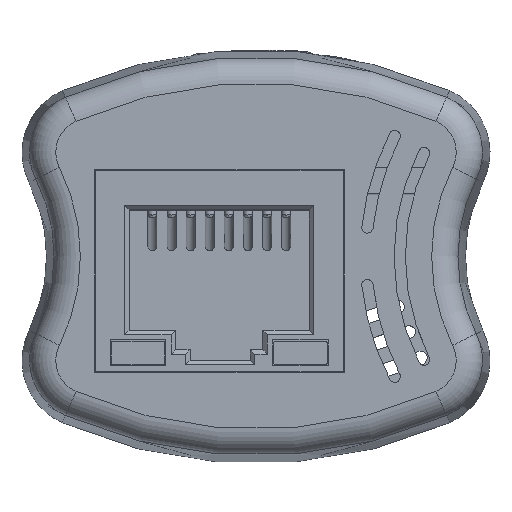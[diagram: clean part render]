
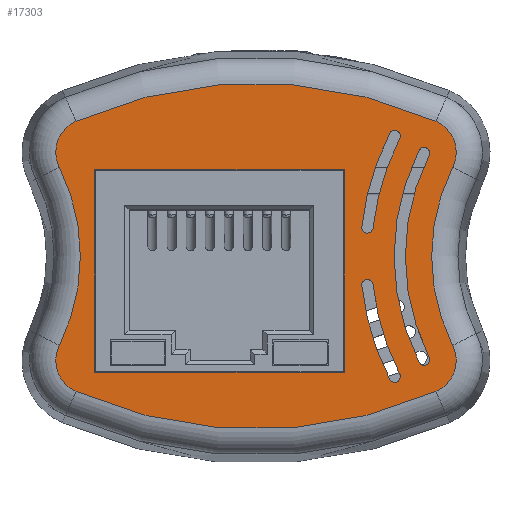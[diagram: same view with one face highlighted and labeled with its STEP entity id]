
A CAD part, top view. The second image highlights one B-rep face of the part: STEP entity #17303.
In plain terms, the highlighted planar face has unit normal (0, 0, 1).
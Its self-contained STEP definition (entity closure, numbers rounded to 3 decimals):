
#208=FACE_BOUND('',#2833,.T.);
#209=FACE_BOUND('',#2834,.T.);
#210=FACE_BOUND('',#2835,.T.);
#211=FACE_BOUND('',#2836,.T.);
#999=PLANE('',#18638);
#1842=FACE_OUTER_BOUND('',#2832,.T.);
#2832=EDGE_LOOP('',(#15307,#15308,#15309,#15310,#15311,#15312,#15313,#15314));
#2833=EDGE_LOOP('',(#15315,#15316,#15317,#15318));
#2834=EDGE_LOOP('',(#15319,#15320,#15321,#15322));
#2835=EDGE_LOOP('',(#15323,#15324,#15325,#15326));
#2836=EDGE_LOOP('',(#15327,#15328,#15329,#15330));
#4459=LINE('',#32143,#6216);
#4462=LINE('',#32149,#6219);
#4466=LINE('',#32161,#6223);
#4469=LINE('',#32165,#6226);
#6216=VECTOR('',#22396,10.);
#6219=VECTOR('',#22401,10.);
#6223=VECTOR('',#22407,10.);
#6226=VECTOR('',#22412,10.);
#6978=CIRCLE('',#18544,17.249);
#6980=CIRCLE('',#18547,0.375);
#6982=CIRCLE('',#18550,17.999);
#6984=CIRCLE('',#18553,0.375);
#6986=CIRCLE('',#18556,14.999);
#6988=CIRCLE('',#18559,0.375);
#6990=CIRCLE('',#18562,15.749);
#6992=CIRCLE('',#18565,0.375);
#6994=CIRCLE('',#18572,17.249);
#6996=CIRCLE('',#18575,0.375);
#6998=CIRCLE('',#18578,17.999);
#7000=CIRCLE('',#18581,0.375);
#7010=CIRCLE('',#18600,13.249);
#7015=CIRCLE('',#18606,2.251);
#7018=CIRCLE('',#18610,29.751);
#7021=CIRCLE('',#18614,2.251);
#7024=CIRCLE('',#18618,13.249);
#7027=CIRCLE('',#18622,2.251);
#7030=CIRCLE('',#18626,29.751);
#7032=CIRCLE('',#18629,2.251);
#8431=VERTEX_POINT('',#32092);
#8432=VERTEX_POINT('',#32094);
#8434=VERTEX_POINT('',#32100);
#8436=VERTEX_POINT('',#32106);
#8439=VERTEX_POINT('',#32116);
#8440=VERTEX_POINT('',#32118);
#8442=VERTEX_POINT('',#32124);
#8444=VERTEX_POINT('',#32130);
#8447=VERTEX_POINT('',#32140);
#8448=VERTEX_POINT('',#32142);
#8450=VERTEX_POINT('',#32148);
#8454=VERTEX_POINT('',#32160);
#8457=VERTEX_POINT('',#32170);
#8458=VERTEX_POINT('',#32172);
#8460=VERTEX_POINT('',#32178);
#8462=VERTEX_POINT('',#32184);
#8470=VERTEX_POINT('',#32220);
#8471=VERTEX_POINT('',#32222);
#8473=VERTEX_POINT('',#32228);
#8475=VERTEX_POINT('',#32234);
#8477=VERTEX_POINT('',#32240);
#8479=VERTEX_POINT('',#32246);
#8481=VERTEX_POINT('',#32252);
#8483=VERTEX_POINT('',#32258);
#10744=EDGE_CURVE('',#8432,#8431,#6978,.T.);
#10747=EDGE_CURVE('',#8434,#8432,#6980,.T.);
#10750=EDGE_CURVE('',#8436,#8434,#6982,.T.);
#10753=EDGE_CURVE('',#8431,#8436,#6984,.T.);
#10756=EDGE_CURVE('',#8440,#8439,#6986,.T.);
#10759=EDGE_CURVE('',#8442,#8440,#6988,.T.);
#10762=EDGE_CURVE('',#8444,#8442,#6990,.T.);
#10765=EDGE_CURVE('',#8439,#8444,#6992,.T.);
#10768=EDGE_CURVE('',#8448,#8447,#4459,.T.);
#10771=EDGE_CURVE('',#8450,#8448,#4462,.T.);
#10776=EDGE_CURVE('',#8454,#8450,#4466,.T.);
#10779=EDGE_CURVE('',#8447,#8454,#4469,.T.);
#10782=EDGE_CURVE('',#8458,#8457,#6994,.T.);
#10785=EDGE_CURVE('',#8460,#8458,#6996,.T.);
#10788=EDGE_CURVE('',#8462,#8460,#6998,.T.);
#10791=EDGE_CURVE('',#8457,#8462,#7000,.T.);
#10807=EDGE_CURVE('',#8470,#8471,#7010,.T.);
#10812=EDGE_CURVE('',#8471,#8473,#7015,.T.);
#10815=EDGE_CURVE('',#8473,#8475,#7018,.T.);
#10818=EDGE_CURVE('',#8475,#8477,#7021,.T.);
#10821=EDGE_CURVE('',#8477,#8479,#7024,.T.);
#10824=EDGE_CURVE('',#8479,#8481,#7027,.T.);
#10827=EDGE_CURVE('',#8481,#8483,#7030,.T.);
#10829=EDGE_CURVE('',#8483,#8470,#7032,.T.);
#15307=ORIENTED_EDGE('',*,*,#10807,.F.);
#15308=ORIENTED_EDGE('',*,*,#10829,.F.);
#15309=ORIENTED_EDGE('',*,*,#10827,.F.);
#15310=ORIENTED_EDGE('',*,*,#10824,.F.);
#15311=ORIENTED_EDGE('',*,*,#10821,.F.);
#15312=ORIENTED_EDGE('',*,*,#10818,.F.);
#15313=ORIENTED_EDGE('',*,*,#10815,.F.);
#15314=ORIENTED_EDGE('',*,*,#10812,.F.);
#15315=ORIENTED_EDGE('',*,*,#10750,.T.);
#15316=ORIENTED_EDGE('',*,*,#10747,.T.);
#15317=ORIENTED_EDGE('',*,*,#10744,.T.);
#15318=ORIENTED_EDGE('',*,*,#10753,.T.);
#15319=ORIENTED_EDGE('',*,*,#10762,.T.);
#15320=ORIENTED_EDGE('',*,*,#10759,.T.);
#15321=ORIENTED_EDGE('',*,*,#10756,.T.);
#15322=ORIENTED_EDGE('',*,*,#10765,.T.);
#15323=ORIENTED_EDGE('',*,*,#10768,.T.);
#15324=ORIENTED_EDGE('',*,*,#10779,.T.);
#15325=ORIENTED_EDGE('',*,*,#10776,.T.);
#15326=ORIENTED_EDGE('',*,*,#10771,.T.);
#15327=ORIENTED_EDGE('',*,*,#10788,.T.);
#15328=ORIENTED_EDGE('',*,*,#10785,.T.);
#15329=ORIENTED_EDGE('',*,*,#10782,.T.);
#15330=ORIENTED_EDGE('',*,*,#10791,.T.);
#17303=ADVANCED_FACE('',(#1842,#208,#209,#210,#211),#999,.T.);
#18544=AXIS2_PLACEMENT_3D('',#32095,#22341,#22342);
#18547=AXIS2_PLACEMENT_3D('',#32101,#22348,#22349);
#18550=AXIS2_PLACEMENT_3D('',#32107,#22355,#22356);
#18553=AXIS2_PLACEMENT_3D('',#32111,#22362,#22363);
#18556=AXIS2_PLACEMENT_3D('',#32119,#22369,#22370);
#18559=AXIS2_PLACEMENT_3D('',#32125,#22376,#22377);
#18562=AXIS2_PLACEMENT_3D('',#32131,#22383,#22384);
#18565=AXIS2_PLACEMENT_3D('',#32135,#22390,#22391);
#18572=AXIS2_PLACEMENT_3D('',#32173,#22418,#22419);
#18575=AXIS2_PLACEMENT_3D('',#32179,#22425,#22426);
#18578=AXIS2_PLACEMENT_3D('',#32185,#22432,#22433);
#18581=AXIS2_PLACEMENT_3D('',#32189,#22439,#22440);
#18600=AXIS2_PLACEMENT_3D('',#32223,#22483,#22484);
#18606=AXIS2_PLACEMENT_3D('',#32232,#22495,#22496);
#18610=AXIS2_PLACEMENT_3D('',#32238,#22503,#22504);
#18614=AXIS2_PLACEMENT_3D('',#32244,#22511,#22512);
#18618=AXIS2_PLACEMENT_3D('',#32250,#22519,#22520);
#18622=AXIS2_PLACEMENT_3D('',#32256,#22527,#22528);
#18626=AXIS2_PLACEMENT_3D('',#32262,#22535,#22536);
#18629=AXIS2_PLACEMENT_3D('',#32265,#22541,#22542);
#18638=AXIS2_PLACEMENT_3D('',#32284,#22564,#22565);
#22341=DIRECTION('center_axis',(0.,0.,1.));
#22342=DIRECTION('ref_axis',(-0.994,-0.109,0.));
#22348=DIRECTION('center_axis',(0.,0.,-1.));
#22349=DIRECTION('ref_axis',(0.994,0.109,0.));
#22355=DIRECTION('center_axis',(0.,0.,-1.));
#22356=DIRECTION('ref_axis',(-0.994,-0.109,0.));
#22362=DIRECTION('center_axis',(0.,0.,-1.));
#22363=DIRECTION('ref_axis',(-0.891,-0.454,0.));
#22369=DIRECTION('center_axis',(0.,0.,1.));
#22370=DIRECTION('ref_axis',(-0.895,0.447,0.));
#22376=DIRECTION('center_axis',(0.,0.,-1.));
#22377=DIRECTION('ref_axis',(0.895,-0.447,0.));
#22383=DIRECTION('center_axis',(0.,0.,-1.));
#22384=DIRECTION('ref_axis',(-0.895,0.447,0.));
#22390=DIRECTION('center_axis',(0.,0.,-1.));
#22391=DIRECTION('ref_axis',(-0.895,-0.447,0.));
#22396=DIRECTION('',(0.,-1.,0.));
#22401=DIRECTION('',(1.,0.,0.));
#22407=DIRECTION('',(0.,1.,0.));
#22412=DIRECTION('',(-1.,0.,0.));
#22418=DIRECTION('center_axis',(0.,0.,1.));
#22419=DIRECTION('ref_axis',(-0.891,0.454,0.));
#22425=DIRECTION('center_axis',(0.,0.,-1.));
#22426=DIRECTION('ref_axis',(0.891,-0.454,0.));
#22432=DIRECTION('center_axis',(0.,0.,-1.));
#22433=DIRECTION('ref_axis',(-0.891,0.454,0.));
#22439=DIRECTION('center_axis',(0.,0.,-1.));
#22440=DIRECTION('ref_axis',(-0.994,0.109,0.));
#22483=DIRECTION('center_axis',(0.,0.,1.));
#22484=DIRECTION('ref_axis',(-1.,0.,0.));
#22495=DIRECTION('center_axis',(0.,0.,-1.));
#22496=DIRECTION('ref_axis',(0.94,-0.34,0.));
#22503=DIRECTION('center_axis',(0.,0.,-1.));
#22504=DIRECTION('ref_axis',(0.,-1.,0.));
#22511=DIRECTION('center_axis',(0.,0.,-1.));
#22512=DIRECTION('ref_axis',(-0.94,-0.34,0.));
#22519=DIRECTION('center_axis',(0.,0.,1.));
#22520=DIRECTION('ref_axis',(1.,0.,0.));
#22527=DIRECTION('center_axis',(0.,0.,-1.));
#22528=DIRECTION('ref_axis',(-0.94,0.34,0.));
#22535=DIRECTION('center_axis',(0.,0.,-1.));
#22536=DIRECTION('ref_axis',(0.,1.,0.));
#22541=DIRECTION('center_axis',(0.,0.,-1.));
#22542=DIRECTION('ref_axis',(0.94,0.34,0.));
#22564=DIRECTION('center_axis',(0.,0.,1.));
#22565=DIRECTION('ref_axis',(1.,0.,0.));
#32092=CARTESIAN_POINT('',(9.561,-7.831,16.02));
#32094=CARTESIAN_POINT('',(7.783,-1.872,16.02));
#32095=CARTESIAN_POINT('Origin',(24.93,0.,16.02));
#32100=CARTESIAN_POINT('',(7.038,-1.954,16.02));
#32101=CARTESIAN_POINT('Origin',(7.41,-1.913,16.02));
#32106=CARTESIAN_POINT('',(8.893,-8.171,16.02));
#32107=CARTESIAN_POINT('Origin',(24.93,0.,16.02));
#32111=CARTESIAN_POINT('Origin',(9.227,-8.001,16.02));
#32116=CARTESIAN_POINT('',(11.512,-6.702,16.02));
#32118=CARTESIAN_POINT('',(11.512,6.702,16.02));
#32119=CARTESIAN_POINT('Origin',(24.93,0.,16.02));
#32124=CARTESIAN_POINT('',(10.841,7.037,16.02));
#32125=CARTESIAN_POINT('Origin',(11.177,6.87,16.02));
#32130=CARTESIAN_POINT('',(10.841,-7.037,16.02));
#32131=CARTESIAN_POINT('Origin',(24.93,0.,16.02));
#32135=CARTESIAN_POINT('Origin',(11.177,-6.87,16.02));
#32140=CARTESIAN_POINT('',(5.87,-7.7,16.02));
#32142=CARTESIAN_POINT('',(5.87,5.75,16.02));
#32143=CARTESIAN_POINT('',(5.87,2.875,16.02));
#32148=CARTESIAN_POINT('',(-10.73,5.75,16.02));
#32149=CARTESIAN_POINT('',(-5.365,5.75,16.02));
#32160=CARTESIAN_POINT('',(-10.73,-7.7,16.02));
#32161=CARTESIAN_POINT('',(-10.73,-3.85,16.02));
#32165=CARTESIAN_POINT('',(2.935,-7.7,16.02));
#32170=CARTESIAN_POINT('',(7.784,1.878,16.02));
#32172=CARTESIAN_POINT('',(9.56,7.829,16.02));
#32173=CARTESIAN_POINT('Origin',(24.93,0.,16.02));
#32178=CARTESIAN_POINT('',(8.892,8.169,16.02));
#32179=CARTESIAN_POINT('Origin',(9.226,7.999,16.02));
#32184=CARTESIAN_POINT('',(7.038,1.959,16.02));
#32185=CARTESIAN_POINT('Origin',(24.93,0.,16.02));
#32189=CARTESIAN_POINT('Origin',(7.411,1.919,16.02));
#32220=CARTESIAN_POINT('',(13.078,5.92,16.02));
#32222=CARTESIAN_POINT('',(13.078,-5.92,16.02));
#32223=CARTESIAN_POINT('Origin',(24.93,0.,16.02));
#32228=CARTESIAN_POINT('',(11.969,-8.987,16.02));
#32232=CARTESIAN_POINT('Origin',(11.064,-6.926,16.02));
#32234=CARTESIAN_POINT('',(-11.969,-8.987,16.02));
#32238=CARTESIAN_POINT('Origin',(0.,18.25,16.02));
#32240=CARTESIAN_POINT('',(-13.078,-5.92,16.02));
#32244=CARTESIAN_POINT('Origin',(-11.064,-6.926,16.02));
#32246=CARTESIAN_POINT('',(-13.078,5.92,16.02));
#32250=CARTESIAN_POINT('Origin',(-24.93,0.,16.02));
#32252=CARTESIAN_POINT('',(-11.969,8.987,16.02));
#32256=CARTESIAN_POINT('Origin',(-11.064,6.926,16.02));
#32258=CARTESIAN_POINT('',(11.969,8.987,16.02));
#32262=CARTESIAN_POINT('Origin',(0.,-18.25,16.02));
#32265=CARTESIAN_POINT('Origin',(11.064,6.926,16.02));
#32284=CARTESIAN_POINT('Origin',(0.,0.,
16.02));
